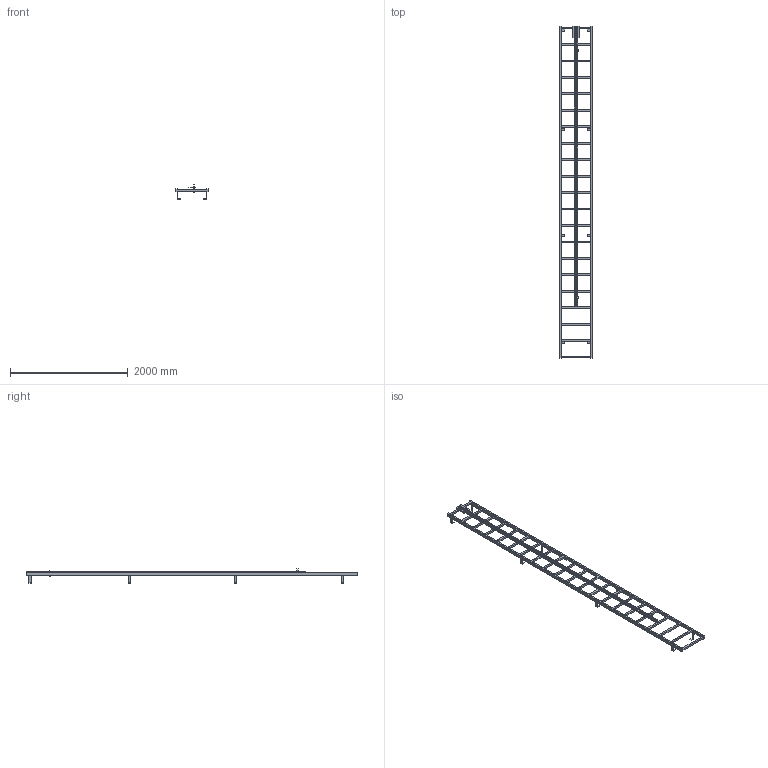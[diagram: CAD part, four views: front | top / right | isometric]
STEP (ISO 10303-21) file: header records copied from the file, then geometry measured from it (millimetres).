
FILE_DESCRIPTION((''),'2;1');
FILE_NAME('52330220','2024-12-05T09:34:24',('wep'),('HUBER SE'),'CREO PARAMETRIC BY PTC INC, 2022162','CREO PARAMETRIC BY PTC INC, 2022162','');
FILE_SCHEMA(('AUTOMOTIVE_DESIGN { 1 0 10303 214 1 1 1 1 }'));
Length unit declared in the file: millimetre
Products named in the file (1): 52330220
Bounding box: 550 x 5650 x 239 mm (x, y, z)
Volume: 26352044 mm3; surface area: 4489730.5 mm2
Topology: 2 solids, 2 shells, 344 faces, 1002 edges, 658 vertices
Faces by surface type: plane 344
Entity records: 11877 total; most frequent: CARTESIAN_POINT 2006, ORIENTED_EDGE 2004, DIRECTION 1690, VECTOR 1002, LINE 1002, EDGE_CURVE 1002, VERTEX_POINT 658, EDGE_LOOP 452
